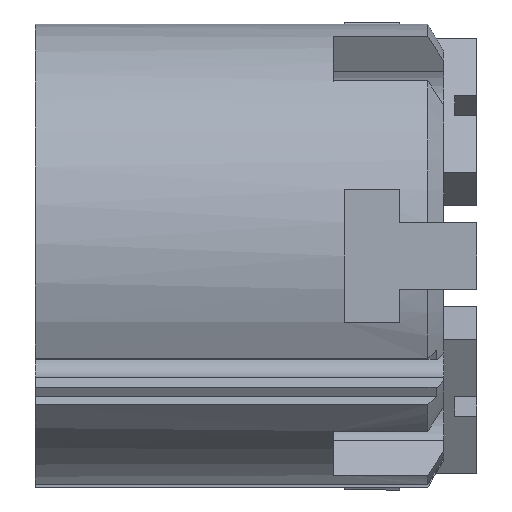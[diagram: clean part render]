
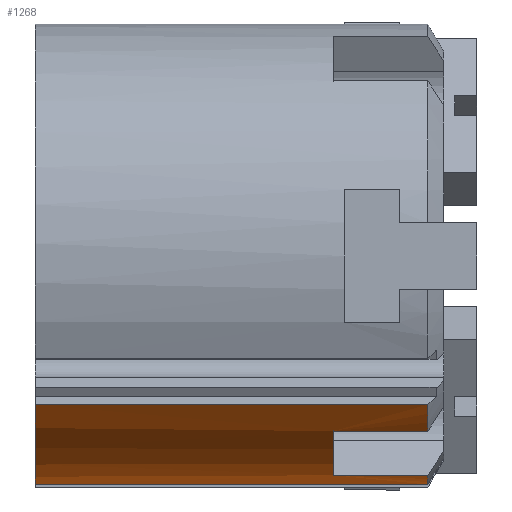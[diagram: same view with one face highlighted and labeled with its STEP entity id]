
A CAD part, left-side view. The second image highlights one B-rep face of the part: STEP entity #1268.
In plain terms, the highlighted cylindrical face has radius 21 mm (diameter 42 mm), a partial arc.
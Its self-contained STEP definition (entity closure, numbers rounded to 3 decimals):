
#56 = AXIS2_PLACEMENT_3D ( 'NONE', #2216, #5872, #2736 ) ;
#73 = DIRECTION ( 'NONE',  ( 0., 0., -1. ) ) ;
#92 = AXIS2_PLACEMENT_3D ( 'NONE', #1699, #5349, #2219 ) ;
#106 = CARTESIAN_POINT ( 'NONE',  ( -3.588, -35.557, -20.691 ) ) ;
#152 = CARTESIAN_POINT ( 'NONE',  ( 0., -35.557, 0. ) ) ;
#252 = CARTESIAN_POINT ( 'NONE',  ( -13.772, -35.557, -15.854 ) ) ;
#282 = CARTESIAN_POINT ( 'NONE',  ( -16.125, -35.557, -13.453 ) ) ;
#314 = CIRCLE ( 'NONE', #1627, 21. ) ;
#458 = EDGE_CURVE ( 'NONE', #3348, #5882, #6319, .T. ) ;
#773 = VECTOR ( 'NONE', #5602, 1000. ) ;
#777 = CARTESIAN_POINT ( 'NONE',  ( -6.844, -17.778, -19.854 ) ) ;
#813 = LINE ( 'NONE', #6413, #1873 ) ;
#870 = EDGE_CURVE ( 'NONE', #1988, #3918, #878, .T. ) ;
#878 = LINE ( 'NONE', #1305, #4873 ) ;
#1019 = ORIENTED_EDGE ( 'NONE', *, *, #458, .T. ) ;
#1164 = VECTOR ( 'NONE', #5322, 1000. ) ;
#1189 = ORIENTED_EDGE ( 'NONE', *, *, #4567, .T. ) ;
#1256 = DIRECTION ( 'NONE',  ( 0., -1., 0. ) ) ;
#1268 = ADVANCED_FACE ( 'NONE', ( #6686 ), #6507, .T. ) ;
#1277 = ORIENTED_EDGE ( 'NONE', *, *, #6484, .F. ) ;
#1305 = CARTESIAN_POINT ( 'NONE',  ( -13.772, -17.778, -15.854 ) ) ;
#1391 = EDGE_CURVE ( 'NONE', #2042, #3348, #314, .T. ) ;
#1396 = CARTESIAN_POINT ( 'NONE',  ( -6.844, -35.557, -19.854 ) ) ;
#1480 = CIRCLE ( 'NONE', #5975, 21. ) ;
#1509 = CARTESIAN_POINT ( 'NONE',  ( -6.844, -27., -19.854 ) ) ;
#1627 = AXIS2_PLACEMENT_3D ( 'NONE', #4767, #1654, #5291 ) ;
#1654 = DIRECTION ( 'NONE',  ( 0., 1., 0. ) ) ;
#1699 = CARTESIAN_POINT ( 'NONE',  ( 0., -27., 0. ) ) ;
#1873 = VECTOR ( 'NONE', #2255, 1000. ) ;
#1988 = VERTEX_POINT ( 'NONE', #3710 ) ;
#2042 = VERTEX_POINT ( 'NONE', #106 ) ;
#2216 = CARTESIAN_POINT ( 'NONE',  ( 0., -35.557, 0. ) ) ;
#2219 = DIRECTION ( 'NONE',  ( 0., 0., -1. ) ) ;
#2255 = DIRECTION ( 'NONE',  ( 0., 1., 0. ) ) ;
#2501 = ORIENTED_EDGE ( 'NONE', *, *, #4585, .T. ) ;
#2689 = ORIENTED_EDGE ( 'NONE', *, *, #6140, .T. ) ;
#2736 = DIRECTION ( 'NONE',  ( -0.124, 0., -0.992 ) ) ;
#2868 = ORIENTED_EDGE ( 'NONE', *, *, #1391, .T. ) ;
#3169 = DIRECTION ( 'NONE',  ( 0., 1., 0. ) ) ;
#3250 = DIRECTION ( 'NONE',  ( 0., 0., -1. ) ) ;
#3348 = VERTEX_POINT ( 'NONE', #1396 ) ;
#3710 = CARTESIAN_POINT ( 'NONE',  ( -13.772, -27., -15.854 ) ) ;
#3734 = CARTESIAN_POINT ( 'NONE',  ( -3.588, -17.778, -20.691 ) ) ;
#3809 = EDGE_CURVE ( 'NONE', #5882, #1988, #6388, .T. ) ;
#3918 = VERTEX_POINT ( 'NONE', #252 ) ;
#3937 = LINE ( 'NONE', #3734, #1164 ) ;
#3956 = EDGE_LOOP ( 'NONE', ( #1019, #3992, #4594, #2501, #2689, #1277, #1189, #2868 ) ) ;
#3992 = ORIENTED_EDGE ( 'NONE', *, *, #3809, .T. ) ;
#4315 = DIRECTION ( 'NONE',  ( 0., -1., 0. ) ) ;
#4567 = EDGE_CURVE ( 'NONE', #4700, #2042, #3937, .T. ) ;
#4585 = EDGE_CURVE ( 'NONE', #3918, #4694, #6551, .T. ) ;
#4594 = ORIENTED_EDGE ( 'NONE', *, *, #870, .T. ) ;
#4694 = VERTEX_POINT ( 'NONE', #282 ) ;
#4700 = VERTEX_POINT ( 'NONE', #6550 ) ;
#4767 = CARTESIAN_POINT ( 'NONE',  ( 0., -35.557, 0. ) ) ;
#4834 = VERTEX_POINT ( 'NONE', #5650 ) ;
#4873 = VECTOR ( 'NONE', #1256, 1000. ) ;
#5291 = DIRECTION ( 'NONE',  ( -0.124, 0., -0.992 ) ) ;
#5322 = DIRECTION ( 'NONE',  ( 0., -1., 0. ) ) ;
#5349 = DIRECTION ( 'NONE',  ( 0., 1., 0. ) ) ;
#5501 = AXIS2_PLACEMENT_3D ( 'NONE', #152, #4315, #3250 ) ;
#5602 = DIRECTION ( 'NONE',  ( 0., 1., 0. ) ) ;
#5650 = CARTESIAN_POINT ( 'NONE',  ( -16.125, 0., -13.453 ) ) ;
#5872 = DIRECTION ( 'NONE',  ( 0., 1., 0. ) ) ;
#5882 = VERTEX_POINT ( 'NONE', #1509 ) ;
#5975 = AXIS2_PLACEMENT_3D ( 'NONE', #6305, #3169, #73 ) ;
#6140 = EDGE_CURVE ( 'NONE', #4694, #4834, #813, .T. ) ;
#6305 = CARTESIAN_POINT ( 'NONE',  ( 0., 0., 0. ) ) ;
#6319 = LINE ( 'NONE', #777, #773 ) ;
#6388 = CIRCLE ( 'NONE', #92, 21. ) ;
#6413 = CARTESIAN_POINT ( 'NONE',  ( -16.125, -17.778, -13.453 ) ) ;
#6484 = EDGE_CURVE ( 'NONE', #4700, #4834, #1480, .T. ) ;
#6507 = CYLINDRICAL_SURFACE ( 'NONE', #5501, 21. ) ;
#6550 = CARTESIAN_POINT ( 'NONE',  ( -3.588, 0., -20.691 ) ) ;
#6551 = CIRCLE ( 'NONE', #56, 21. ) ;
#6686 = FACE_OUTER_BOUND ( 'NONE', #3956, .T. ) ;
